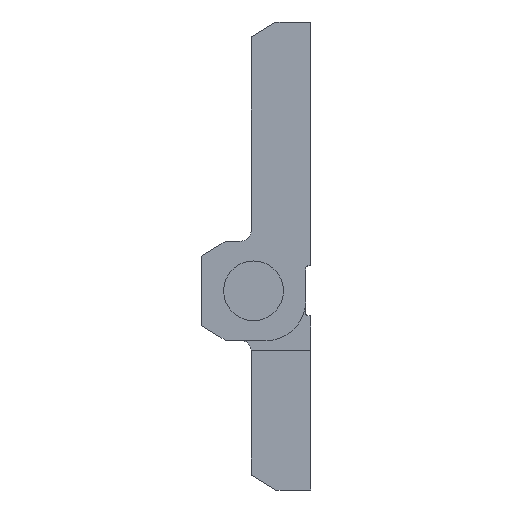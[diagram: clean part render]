
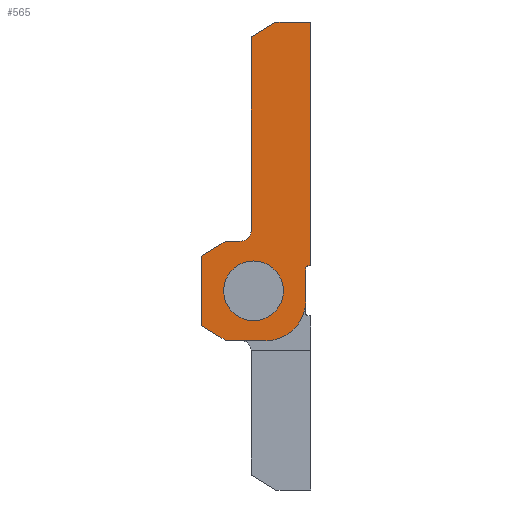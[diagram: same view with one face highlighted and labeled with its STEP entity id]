
A CAD part, left-side view. The second image highlights one B-rep face of the part: STEP entity #565.
In plain terms, the highlighted planar face has unit normal (-1, 0, 0) as drawn and (1, 0, 0) by its records, which use the part's own axes.
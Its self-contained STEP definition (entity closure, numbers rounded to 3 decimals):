
#81 = VERTEX_POINT ( 'NONE', #3576 ) ;
#98 = CARTESIAN_POINT ( 'NONE',  ( 22.5, 0.3, -2.5 ) ) ;
#110 = CARTESIAN_POINT ( 'NONE',  ( 22.5, 8.5, -5. ) ) ;
#136 = ORIENTED_EDGE ( 'NONE', *, *, #2792, .T. ) ;
#138 = VERTEX_POINT ( 'NONE', #98 ) ;
#173 = LINE ( 'NONE', #1209, #1375 ) ;
#283 = LINE ( 'NONE', #3398, #3405 ) ;
#407 = VERTEX_POINT ( 'NONE', #614 ) ;
#412 = EDGE_CURVE ( 'NONE', #407, #3505, #1791, .T. ) ;
#414 = VERTEX_POINT ( 'NONE', #3018 ) ;
#415 = CARTESIAN_POINT ( 'NONE',  ( 22.5, 0., -27. ) ) ;
#500 = CARTESIAN_POINT ( 'NONE',  ( 22.5, 8.5, 5. ) ) ;
#565 = ADVANCED_FACE ( 'NONE', ( #2951, #3824 ), #3172, .T. ) ;
#566 = DIRECTION ( 'NONE',  ( 0., 0., -1. ) ) ;
#580 = LINE ( 'NONE', #2810, #2215 ) ;
#598 = DIRECTION ( 'NONE',  ( 0., 0., 1. ) ) ;
#614 = CARTESIAN_POINT ( 'NONE',  ( 22.5, 5.75, -3. ) ) ;
#624 = VERTEX_POINT ( 'NONE', #415 ) ;
#672 = DIRECTION ( 'NONE',  ( 1., 0., 0. ) ) ;
#676 = CIRCLE ( 'NONE', #700, 4. ) ;
#695 = CARTESIAN_POINT ( 'NONE',  ( 22.5, 0.5, 1. ) ) ;
#700 = AXIS2_PLACEMENT_3D ( 'NONE', #3208, #2823, #778 ) ;
#751 = ORIENTED_EDGE ( 'NONE', *, *, #412, .F. ) ;
#764 = EDGE_LOOP ( 'NONE', ( #1114, #3855, #4160, #1899, #136, #1587, #2438, #1394, #825, #1852, #2902, #2205, #1317, #4096 ) ) ;
#778 = DIRECTION ( 'NONE',  ( 0., 0., -1. ) ) ;
#825 = ORIENTED_EDGE ( 'NONE', *, *, #3917, .T. ) ;
#1078 = CARTESIAN_POINT ( 'NONE',  ( 22.5, 0.5, -2.3 ) ) ;
#1111 = VECTOR ( 'NONE', #4047, 1000. ) ;
#1114 = ORIENTED_EDGE ( 'NONE', *, *, #4299, .T. ) ;
#1120 = CARTESIAN_POINT ( 'NONE',  ( 22.5, 7., -6. ) ) ;
#1208 = EDGE_CURVE ( 'NONE', #3505, #407, #3373, .T. ) ;
#1209 = CARTESIAN_POINT ( 'NONE',  ( 22.5, 7., -5. ) ) ;
#1272 = EDGE_CURVE ( 'NONE', #624, #1689, #580, .T. ) ;
#1317 = ORIENTED_EDGE ( 'NONE', *, *, #2706, .T. ) ;
#1324 = CARTESIAN_POINT ( 'NONE',  ( 22.5, 5.75, 0. ) ) ;
#1366 = CARTESIAN_POINT ( 'NONE',  ( 22.5, 8.5, -5. ) ) ;
#1375 = VECTOR ( 'NONE', #2627, 1000. ) ;
#1377 = LINE ( 'NONE', #2220, #2089 ) ;
#1386 = DIRECTION ( 'NONE',  ( 0., -0.857, 0.514 ) ) ;
#1394 = ORIENTED_EDGE ( 'NONE', *, *, #1272, .T. ) ;
#1396 = VERTEX_POINT ( 'NONE', #3841 ) ;
#1453 = DIRECTION ( 'NONE',  ( 0., 0., 1. ) ) ;
#1587 = ORIENTED_EDGE ( 'NONE', *, *, #3437, .T. ) ;
#1608 = LINE ( 'NONE', #1366, #3410 ) ;
#1645 = VECTOR ( 'NONE', #598, 1000. ) ;
#1667 = ORIENTED_EDGE ( 'NONE', *, *, #1208, .F. ) ;
#1689 = VERTEX_POINT ( 'NONE', #4173 ) ;
#1706 = EDGE_CURVE ( 'NONE', #2651, #1396, #2993, .T. ) ;
#1711 = CARTESIAN_POINT ( 'NONE',  ( 22.5, 5.75, 3. ) ) ;
#1775 = DIRECTION ( 'NONE',  ( 1., 0., 0. ) ) ;
#1791 = CIRCLE ( 'NONE', #1798, 3. ) ;
#1798 = AXIS2_PLACEMENT_3D ( 'NONE', #1324, #3779, #566 ) ;
#1849 = VERTEX_POINT ( 'NONE', #1078 ) ;
#1852 = ORIENTED_EDGE ( 'NONE', *, *, #3202, .T. ) ;
#1862 = LINE ( 'NONE', #500, #1111 ) ;
#1867 = CARTESIAN_POINT ( 'NONE',  ( 22.5, 8.5, 5. ) ) ;
#1885 = VERTEX_POINT ( 'NONE', #3602 ) ;
#1899 = ORIENTED_EDGE ( 'NONE', *, *, #4234, .T. ) ;
#1922 = VERTEX_POINT ( 'NONE', #3632 ) ;
#2063 = AXIS2_PLACEMENT_3D ( 'NONE', #2141, #1775, #2184 ) ;
#2071 = VERTEX_POINT ( 'NONE', #1867 ) ;
#2089 = VECTOR ( 'NONE', #2892, 1000. ) ;
#2118 = DIRECTION ( 'NONE',  ( -1., 0., 0. ) ) ;
#2141 = CARTESIAN_POINT ( 'NONE',  ( 22.5, 4.5, 1. ) ) ;
#2184 = DIRECTION ( 'NONE',  ( 0., 0., -1. ) ) ;
#2191 = LINE ( 'NONE', #4496, #1645 ) ;
#2205 = ORIENTED_EDGE ( 'NONE', *, *, #3318, .T. ) ;
#2215 = VECTOR ( 'NONE', #3146, 1000. ) ;
#2220 = CARTESIAN_POINT ( 'NONE',  ( 22.5, 6., -25.5 ) ) ;
#2303 = DIRECTION ( 'NONE',  ( 0., 0.857, 0.514 ) ) ;
#2409 = LINE ( 'NONE', #695, #3738 ) ;
#2438 = ORIENTED_EDGE ( 'NONE', *, *, #4389, .T. ) ;
#2508 = DIRECTION ( 'NONE',  ( 0., 0., -1. ) ) ;
#2525 = CARTESIAN_POINT ( 'NONE',  ( 22.5, 11., 3.5 ) ) ;
#2534 = AXIS2_PLACEMENT_3D ( 'NONE', #3122, #2723, #1453 ) ;
#2627 = DIRECTION ( 'NONE',  ( 0., 1., 0. ) ) ;
#2651 = VERTEX_POINT ( 'NONE', #3993 ) ;
#2706 = EDGE_CURVE ( 'NONE', #3196, #1885, #1608, .T. ) ;
#2723 = DIRECTION ( 'NONE',  ( -1., 0., 0. ) ) ;
#2738 = DIRECTION ( 'NONE',  ( 0., 0., -1. ) ) ;
#2781 = DIRECTION ( 'NONE',  ( 0., 0.857, 0.514 ) ) ;
#2792 = EDGE_CURVE ( 'NONE', #1849, #138, #3193, .T. ) ;
#2804 = VECTOR ( 'NONE', #2303, 1000. ) ;
#2810 = CARTESIAN_POINT ( 'NONE',  ( 22.5, 0., -27. ) ) ;
#2823 = DIRECTION ( 'NONE',  ( 1., 0., 0. ) ) ;
#2833 = AXIS2_PLACEMENT_3D ( 'NONE', #1120, #2118, #2508 ) ;
#2864 = CARTESIAN_POINT ( 'NONE',  ( 22.5, 0., -2.5 ) ) ;
#2892 = DIRECTION ( 'NONE',  ( 0., 0., 1. ) ) ;
#2902 = ORIENTED_EDGE ( 'NONE', *, *, #1706, .T. ) ;
#2951 = FACE_OUTER_BOUND ( 'NONE', #764, .T. ) ;
#2993 = CIRCLE ( 'NONE', #2833, 1. ) ;
#3018 = CARTESIAN_POINT ( 'NONE',  ( 22.5, 6., -25.5 ) ) ;
#3029 = EDGE_CURVE ( 'NONE', #3472, #1922, #676, .T. ) ;
#3031 = DIRECTION ( 'NONE',  ( 0., -1., 0. ) ) ;
#3122 = CARTESIAN_POINT ( 'NONE',  ( 22.5, 0.3, -2.3 ) ) ;
#3146 = DIRECTION ( 'NONE',  ( 0., 1., 0. ) ) ;
#3172 = PLANE ( 'NONE',  #2063 ) ;
#3193 = CIRCLE ( 'NONE', #2534, 0.2 ) ;
#3196 = VERTEX_POINT ( 'NONE', #110 ) ;
#3202 = EDGE_CURVE ( 'NONE', #414, #2651, #1377, .T. ) ;
#3208 = CARTESIAN_POINT ( 'NONE',  ( 22.5, 4.5, 1. ) ) ;
#3318 = EDGE_CURVE ( 'NONE', #1396, #3196, #173, .T. ) ;
#3343 = VECTOR ( 'NONE', #1386, 1000. ) ;
#3373 = CIRCLE ( 'NONE', #4511, 3. ) ;
#3398 = CARTESIAN_POINT ( 'NONE',  ( 22.5, 0.3, -2.5 ) ) ;
#3405 = VECTOR ( 'NONE', #3031, 1000. ) ;
#3410 = VECTOR ( 'NONE', #2781, 1000. ) ;
#3437 = EDGE_CURVE ( 'NONE', #138, #81, #283, .T. ) ;
#3471 = CARTESIAN_POINT ( 'NONE',  ( 22.5, 11., 3.5 ) ) ;
#3472 = VERTEX_POINT ( 'NONE', #3734 ) ;
#3505 = VERTEX_POINT ( 'NONE', #1711 ) ;
#3571 = LINE ( 'NONE', #2864, #4166 ) ;
#3576 = CARTESIAN_POINT ( 'NONE',  ( 22.5, 0., -2.5 ) ) ;
#3602 = CARTESIAN_POINT ( 'NONE',  ( 22.5, 11., -3.5 ) ) ;
#3632 = CARTESIAN_POINT ( 'NONE',  ( 22.5, 0.5, 1. ) ) ;
#3734 = CARTESIAN_POINT ( 'NONE',  ( 22.5, 4.5, 5. ) ) ;
#3738 = VECTOR ( 'NONE', #3844, 1000. ) ;
#3742 = LINE ( 'NONE', #4420, #2804 ) ;
#3779 = DIRECTION ( 'NONE',  ( 1., 0., 0. ) ) ;
#3824 = FACE_BOUND ( 'NONE', #3941, .T. ) ;
#3841 = CARTESIAN_POINT ( 'NONE',  ( 22.5, 7., -5. ) ) ;
#3844 = DIRECTION ( 'NONE',  ( 0., 0., -1. ) ) ;
#3855 = ORIENTED_EDGE ( 'NONE', *, *, #4507, .T. ) ;
#3917 = EDGE_CURVE ( 'NONE', #1689, #414, #3742, .T. ) ;
#3941 = EDGE_LOOP ( 'NONE', ( #1667, #751 ) ) ;
#3993 = CARTESIAN_POINT ( 'NONE',  ( 22.5, 6., -6. ) ) ;
#4038 = EDGE_CURVE ( 'NONE', #1885, #4383, #2191, .T. ) ;
#4047 = DIRECTION ( 'NONE',  ( 0., -1., 0. ) ) ;
#4096 = ORIENTED_EDGE ( 'NONE', *, *, #4038, .T. ) ;
#4160 = ORIENTED_EDGE ( 'NONE', *, *, #3029, .T. ) ;
#4166 = VECTOR ( 'NONE', #4304, 1000. ) ;
#4173 = CARTESIAN_POINT ( 'NONE',  ( 22.5, 3.5, -27. ) ) ;
#4234 = EDGE_CURVE ( 'NONE', #1922, #1849, #2409, .T. ) ;
#4282 = LINE ( 'NONE', #3471, #3343 ) ;
#4299 = EDGE_CURVE ( 'NONE', #4383, #2071, #4282, .T. ) ;
#4304 = DIRECTION ( 'NONE',  ( 0., 0., -1. ) ) ;
#4383 = VERTEX_POINT ( 'NONE', #2525 ) ;
#4389 = EDGE_CURVE ( 'NONE', #81, #624, #3571, .T. ) ;
#4420 = CARTESIAN_POINT ( 'NONE',  ( 22.5, 3.5, -27. ) ) ;
#4496 = CARTESIAN_POINT ( 'NONE',  ( 22.5, 11., -3.5 ) ) ;
#4506 = CARTESIAN_POINT ( 'NONE',  ( 22.5, 5.75, 0. ) ) ;
#4507 = EDGE_CURVE ( 'NONE', #2071, #3472, #1862, .T. ) ;
#4511 = AXIS2_PLACEMENT_3D ( 'NONE', #4506, #672, #2738 ) ;
